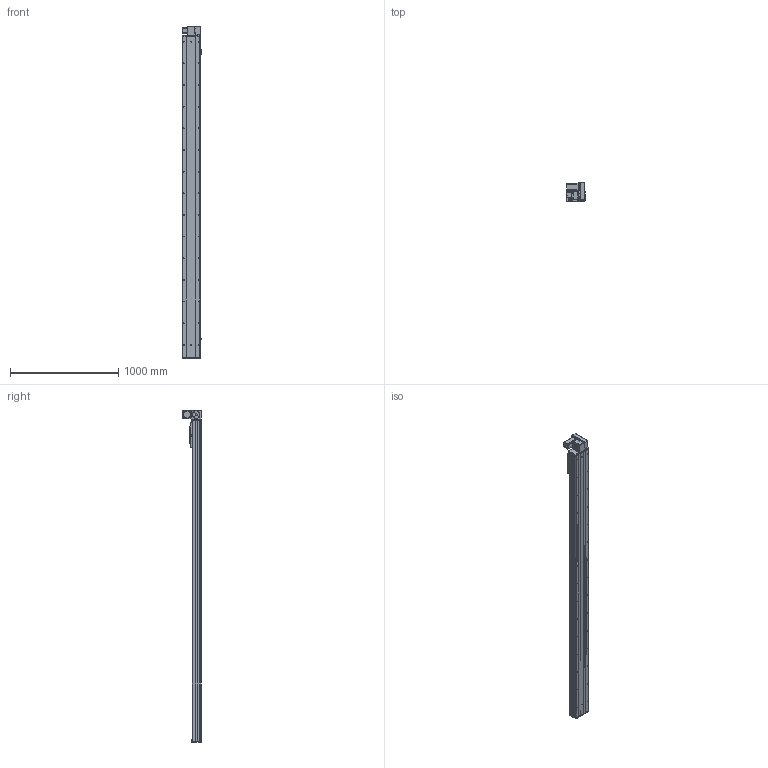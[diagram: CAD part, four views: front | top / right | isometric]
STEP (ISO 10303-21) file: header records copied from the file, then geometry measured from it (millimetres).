
FILE_DESCRIPTION (( 'STEP AP203' ), '1' );
FILE_NAME ('Y170CB-D105-S2650-UR-P400W.STEP', '2020-02-20T05:50:59', ( '微软用户' ), ( '微软中国' ), 'SwSTEP 2.0', 'SolidWorks 2017', '' );
FILE_SCHEMA (( 'CONFIG_CONTROL_DESIGN' ));
Length unit declared in the file: millimetre
Products named in the file (18): san松下电机400不带刹车----; Y100-135俋离換覜ん--; 70CB-掛极-; Y170CB-陔俋离換覜結え---; --70CB --喘謫眊楊擘啣-; Y1埴倛裔; 70CB-耜裔啣-; 17B-耜蚾蟀諉啣----; 70C--詩湍揤踡え-; 00B-俋欶BM--163; 70CB--耜裔; 70B喘謫眊----; 70C-雄赽釱-奻-; B-源倛裔啣; Y170CB-D105-S2650-UR-P400W; 0C--雄赽釱俋欶-170; 0B-萇儂楊擘啣; 70CB-詩湍--
Assembly tree (21 placements, depth 2):
  Y170CB-D105-S2650-UR-P400W
    B-源倛裔啣
    0B-萇儂楊擘啣
    san松下电机400不带刹车----
    70CB-掛极-
    --70CB --喘謫眊楊擘啣-
    70CB-耜裔啣-  x2
    70C--詩湍揤踡え-  x2
    70CB--耜裔
    70C-雄赽釱-奻-
    0C--雄赽釱俋欶-170
    70CB-詩湍--
    Y100-135俋离換覜ん--  x3
    Y170CB-陔俋离換覜結え---
    Y1埴倛裔
    17B-耜蚾蟀諉啣----
    00B-俋欶BM--163
    70B喘謫眊----
Bounding box: 183.5 x 174 x 3066 mm (x, y, z)
Volume: 13036502.5 mm3; surface area: 4709130.1 mm2
Topology: 21 solids, 21 shells, 1071 faces, 2885 edges, 1914 vertices
Faces by surface type: cylinder 585, plane 462, cone 24
Entity records: 34372 total; most frequent: CARTESIAN_POINT 6336, DIRECTION 5594, ORIENTED_EDGE 5252, EDGE_CURVE 2626, AXIS2_PLACEMENT_3D 2068, VERTEX_POINT 1744, LINE 1458, VECTOR 1458
